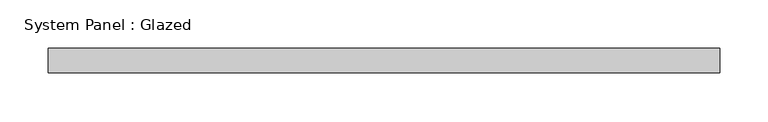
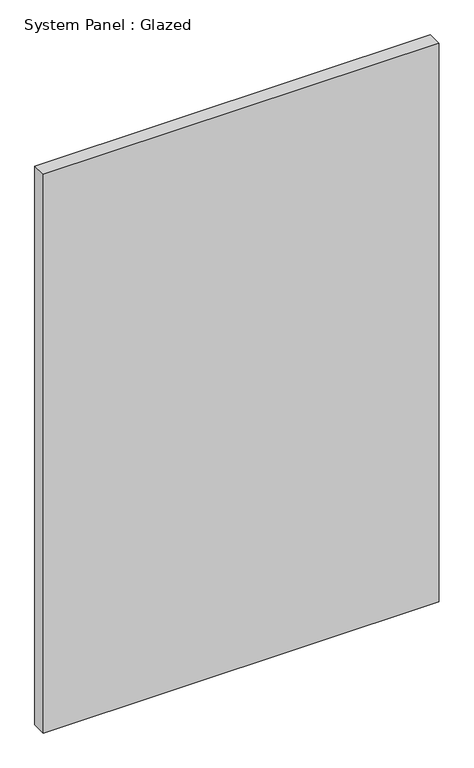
"""IFC4 building model written with IfcOpenShell, lengths in millimetres: plate geometry, System Panel : Glazed."""

import ifcopenshell
import ifcopenshell.guid

model = None  # the IFC model being written
_history = None  # IfcOwnerHistory: only IFC2X3 demands one
_inside = {}  # id of a spatial element -> (the spatial element, [elements in it])
_under = {}  # id of a project, library or spatial element -> (it, [spatial elements below it])
_declared = {}  # id of a project -> (the project, [libraries it declares])
_typed = {}  # id of a type object -> (the type object, [elements of that type])
_made_of = {}  # id of a material, layer set ... -> (it, [elements and type objects made of it])


def new_model(schema):
    """Start an empty IFC model of exactly this schema.

    Asked for "IFC4X3", IfcOpenShell would pick the latest addendum, in which some entities
    have other attributes; the version numbers below select the first issue.
    IFC2X3 requires an IfcOwnerHistory on every rooted entity: one is made here for all.
    """
    global model, _history
    if schema == "IFC4X3":
        model = ifcopenshell.file(schema_version=(4, 3, 0, 0))
    else:
        model = ifcopenshell.file(schema=schema)
    _inside.clear()
    _under.clear()
    _declared.clear()
    _typed.clear()
    _made_of.clear()
    _history = None
    if model.schema == "IFC2X3":
        org = make("IfcOrganization", Name="unknown")
        user = make(
            "IfcPersonAndOrganization",
            ThePerson=make("IfcPerson", FamilyName="unknown"),
            TheOrganization=org,
        )
        app = make(
            "IfcApplication",
            ApplicationDeveloper=org,
            Version="unknown",
            ApplicationFullName="unknown",
            ApplicationIdentifier="unknown",
        )
        _history = make(
            "IfcOwnerHistory",
            OwningUser=user,
            OwningApplication=app,
            ChangeAction="ADDED",
            CreationDate=0,
        )
    return model


def make(cls, **values):
    """One entity of the class cls with the attributes given. An attribute that is None is left unset."""
    return model.create_entity(
        cls, **{name: value for name, value in values.items() if value is not None}
    )


def rooted(cls, **values):
    """An entity with a GlobalId (a new one), such as an element, a storey or a relation."""
    return make(cls, GlobalId=ifcopenshell.guid.new(), OwnerHistory=_history, **values)


def si_unit(unit_type, name, prefix=None):
    """IfcSIUnit, for example si_unit("LENGTHUNIT", "METRE", prefix="MILLI")."""
    return make("IfcSIUnit", UnitType=unit_type, Prefix=prefix, Name=name)


def assignment(units):
    """IfcUnitAssignment: the units of a project."""
    return None if units is None else make("IfcUnitAssignment", Units=units)


def point(xyz):
    """IfcCartesianPoint."""
    return None if xyz is None else make("IfcCartesianPoint", Coordinates=xyz)


def direction(xyz):
    """IfcDirection."""
    return None if xyz is None else make("IfcDirection", DirectionRatios=xyz)


def frame(location, z_axis=None, x_axis=None):
    """IfcAxis2Placement3D, a coordinate frame: its origin and axes. An axis left out is left unset."""
    return make(
        "IfcAxis2Placement3D",
        Location=point(location),
        Axis=direction(z_axis),
        RefDirection=direction(x_axis),
    )


def origin():
    """The frame at (0, 0, 0) with its axes left unset."""
    return frame((0.0, 0.0, 0.0))


def origin_with_axes():
    """The frame at (0, 0, 0) with the z axis (0, 0, 1) and the x axis (1, 0, 0) written out."""
    return frame((0.0, 0.0, 0.0), z_axis=(0.0, 0.0, 1.0), x_axis=(1.0, 0.0, 0.0))


def place(relative_to, where):
    """IfcLocalPlacement: puts the frame where relative to a parent placement (None: the world)."""
    return make(
        "IfcLocalPlacement", PlacementRelTo=relative_to, RelativePlacement=where
    )


def context(
    kind, dimensions, precision=None, world=None, true_north=None, identifier=None
):
    """IfcGeometricRepresentationContext, for example the 3D "Model" context."""
    return make(
        "IfcGeometricRepresentationContext",
        ContextIdentifier=identifier,
        ContextType=kind,
        CoordinateSpaceDimension=dimensions,
        Precision=precision,
        WorldCoordinateSystem=world,
        TrueNorth=true_north,
    )


def project(units=None, contexts=None):
    """IfcProject with its units and contexts."""
    return rooted(
        "IfcProject",
        Name="project",
        RepresentationContexts=contexts,
        UnitsInContext=assignment(units),
    )


def spatial(cls, under=None, at=None, **own):
    """A site, building, storey or space (cls), placed at a placement, below another one or the project."""
    s = rooted(cls, ObjectPlacement=at, **own)
    if under is not None:
        _under.setdefault(under.id(), (under, []))[1].append(s)
    return s


def polyline(points):
    """IfcPolyline through the points."""
    return make("IfcPolyline", Points=[point(p) for p in points])


def outline(outer, holes=None, kind="AREA"):
    """IfcArbitraryClosedProfileDef: a profile drawn as a closed curve; with holes, ...WithVoids."""
    if holes is None:
        return make("IfcArbitraryClosedProfileDef", ProfileType=kind, OuterCurve=outer)
    return make(
        "IfcArbitraryProfileDefWithVoids",
        ProfileType=kind,
        OuterCurve=outer,
        InnerCurves=holes,
    )


def extrude(swept, where, along, depth):
    """IfcExtrudedAreaSolid: the profile swept, set in the frame where, extruded along a direction by depth."""
    return make(
        "IfcExtrudedAreaSolid",
        SweptArea=swept,
        Position=where,
        ExtrudedDirection=direction(along),
        Depth=depth,
    )


def shape(context_of_items, identifier, shape_type, items):
    """IfcShapeRepresentation: the items that make up one representation, for example the "Body"."""
    return make(
        "IfcShapeRepresentation",
        ContextOfItems=context_of_items,
        RepresentationIdentifier=identifier,
        RepresentationType=shape_type,
        Items=items,
    )


def source(mapping_origin, context_of_items, identifier, shape_type, items):
    """IfcRepresentationMap: a shape defined once, which mapped items show again and again."""
    return make(
        "IfcRepresentationMap",
        MappingOrigin=mapping_origin,
        MappedRepresentation=shape(context_of_items, identifier, shape_type, items),
    )


def transform(
    local_origin,
    x_axis=None,
    y_axis=None,
    z_axis=None,
    scale=None,
    scale2=None,
    scale3=None,
    uniform=True,
):
    """IfcCartesianTransformationOperator3D, or its non-uniform kind. x_axis, y_axis, z_axis: its Axis1, 2, 3."""
    if uniform:
        return make(
            "IfcCartesianTransformationOperator3D",
            Axis1=direction(x_axis),
            Axis2=direction(y_axis),
            LocalOrigin=point(local_origin),
            Scale=scale,
            Axis3=direction(z_axis),
        )
    return make(
        "IfcCartesianTransformationOperator3DnonUniform",
        Axis1=direction(x_axis),
        Axis2=direction(y_axis),
        LocalOrigin=point(local_origin),
        Scale=scale,
        Axis3=direction(z_axis),
        Scale2=scale2,
        Scale3=scale3,
    )


def mapped(mapping_source, mapping_target):
    """IfcMappedItem: shows the shape of a source again, moved by a transform."""
    return make(
        "IfcMappedItem", MappingSource=mapping_source, MappingTarget=mapping_target
    )


def made_of(thing, what):
    """Note that an element or type object is made of a material, layer set ...; save() writes the relation."""
    if what is not None:
        _made_of.setdefault(what.id(), (what, []))[1].append(thing)
    return thing


def element(
    cls,
    number,
    at=None,
    inside=None,
    cuts=None,
    type_object=None,
    material=None,
    context=None,
    identifier="Body",
    shape_type=None,
    held_by="IfcProductDefinitionShape",
    body=None,
    shapes=None,
    **own,
):
    """One element of the class cls, such as IfcWall. Its Tag is "e" and its number.

    at: its placement. inside: the storey or other place that contains it. cuts: it is an
    opening in that element (IfcRelVoidsElement). A single representation is given by context,
    identifier, shape_type and body (its items); several are given by shapes. held_by: the class
    of the entity that holds the representations. save() writes the other relations.
    """
    e = rooted(cls, Tag="e%d" % number, ObjectPlacement=at, **own)
    if body is not None:
        shapes = [shape(context, identifier, shape_type, body)]
    if shapes is not None:
        e.Representation = make(held_by, Representations=shapes)
    if inside is not None:
        _inside.setdefault(inside.id(), (inside, []))[1].append(e)
    if cuts is not None:
        rooted(
            "IfcRelVoidsElement", RelatingBuildingElement=cuts, RelatedOpeningElement=e
        )
    if type_object is not None:
        _typed.setdefault(type_object.id(), (type_object, []))[1].append(e)
    return made_of(e, material)


def aggregate(whole, parts):
    """IfcRelAggregates: a whole, such as a stair, and the parts it consists of."""
    return rooted("IfcRelAggregates", RelatingObject=whole, RelatedObjects=parts)


def save(model, path):
    """Write the relations noted so far, then the file.

    IfcRelAggregates (storeys below a building ...), IfcRelContainedInSpatialStructure (elements
    in a storey), IfcRelDefinesByType, IfcRelAssociatesMaterial and IfcRelDeclares: one each for
    every whole, place, type object, material and project.
    """
    for whole, parts in _under.values():
        aggregate(whole, parts)
    for where, things in _inside.values():
        rooted(
            "IfcRelContainedInSpatialStructure",
            RelatedElements=things,
            RelatingStructure=where,
        )
    for kind, things in _typed.values():
        rooted("IfcRelDefinesByType", RelatedObjects=things, RelatingType=kind)
    for what, things in _made_of.values():
        rooted("IfcRelAssociatesMaterial", RelatedObjects=things, RelatingMaterial=what)
    for by, libraries in _declared.values():
        rooted("IfcRelDeclares", RelatingContext=by, RelatedDefinitions=libraries)
    model.write(path)


def system_panel_glazed_23a32a5b(model_context):
    return source(origin(), model_context, "Body", "SweptSolid", [
        extrude(outline(polyline([(346.86875, 19.05), (-346.86875, 19.05), (-346.86875, 44.45), (346.86875, 44.45), (346.86875, 19.05)])), origin_with_axes(), (0.0, 0.0, 1.0), 1035.05),
    ])


if __name__ == "__main__":
    model = new_model("IFC4")
    model_context = context("Model", 3, world=origin())
    ifc_project = project(units=[si_unit("LENGTHUNIT", "METRE", prefix="MILLI")], contexts=[model_context])
    site = spatial("IfcSite", under=ifc_project)
    building = spatial("IfcBuilding", under=site)
    placement = place(None, origin())
    system_panel_glazed_shape = system_panel_glazed_23a32a5b(model_context)
    element("IfcPlate", 1, ObjectType="System Panel : Glazed", at=placement, inside=building, context=model_context, shape_type="MappedRepresentation", body=[
        mapped(system_panel_glazed_shape, transform((0.0, 0.0, 0.0), x_axis=(1.0, 0.0, 0.0), y_axis=(0.0, 1.0, 0.0), z_axis=(0.0, 0.0, 1.0))),
    ])
    save(model, "model.ifc")
